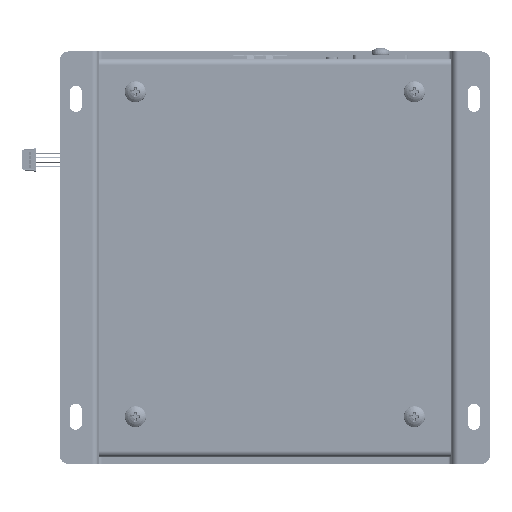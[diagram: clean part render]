
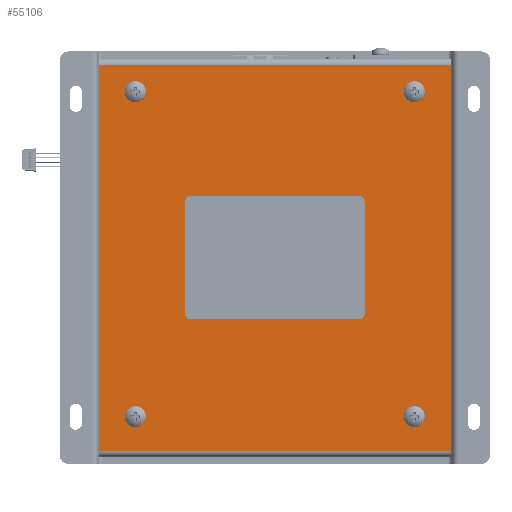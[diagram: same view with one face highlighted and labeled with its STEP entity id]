
A CAD part, front view. The second image highlights one B-rep face of the part: STEP entity #55106.
In plain terms, the highlighted planar face has unit normal (0, -1, 0).
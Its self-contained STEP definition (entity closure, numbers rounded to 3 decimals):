
#2052 = ORIENTED_EDGE ( 'NONE', *, *, #402703, .T. ) ;
#2425 = VERTEX_POINT ( 'NONE', #502120 ) ;
#10266 = DIRECTION ( 'NONE',  ( 0., 0., -1. ) ) ;
#16023 = DIRECTION ( 'NONE',  ( 0., -1., 0. ) ) ;
#24692 = DIRECTION ( 'NONE',  ( 0., 1., 0. ) ) ;
#47108 = VECTOR ( 'NONE', #346224, 1000. ) ;
#49208 = VECTOR ( 'NONE', #379936, 1000. ) ;
#49506 = CARTESIAN_POINT ( 'NONE',  ( 109.279, -18.458, -86.382 ) ) ;
#54592 = CARTESIAN_POINT ( 'NONE',  ( 99.029, -18.458, 15.207 ) ) ;
#55106 = ADVANCED_FACE ( 'NONE', ( #454043, #534404, #404377, #318540, #362795 ), #201965, .F. ) ;
#60153 = CARTESIAN_POINT ( 'NONE',  ( 99.029, -18.458, -78.493 ) ) ;
#100097 = CARTESIAN_POINT ( 'NONE',  ( 109.279, -18.458, 23.707 ) ) ;
#101751 = VERTEX_POINT ( 'NONE', #514586 ) ;
#104950 = ORIENTED_EDGE ( 'NONE', *, *, #531544, .F. ) ;
#115755 = DIRECTION ( 'NONE',  ( -1., 0., 0. ) ) ;
#125047 = CIRCLE ( 'NONE', #487704, 1.7 ) ;
#128952 = EDGE_CURVE ( 'NONE', #498407, #294352, #416074, .T. ) ;
#143276 = CIRCLE ( 'NONE', #337878, 1.7 ) ;
#154638 = CARTESIAN_POINT ( 'NONE',  ( 109.279, -18.458, 22.796 ) ) ;
#156425 = AXIS2_PLACEMENT_3D ( 'NONE', #401636, #24692, #238059 ) ;
#159145 = ORIENTED_EDGE ( 'NONE', *, *, #128952, .T. ) ;
#160834 = CARTESIAN_POINT ( 'NONE',  ( 9.779, -18.458, -86.382 ) ) ;
#170106 = EDGE_LOOP ( 'NONE', ( #159145, #425900, #436781, #2052 ) ) ;
#173966 = CARTESIAN_POINT ( 'NONE',  ( 99.029, -18.458, 13.507 ) ) ;
#177164 = CARTESIAN_POINT ( 'NONE',  ( 109.279, -18.458, -86.382 ) ) ;
#178855 = DIRECTION ( 'NONE',  ( 0., -1., 0. ) ) ;
#182663 = LINE ( 'NONE', #177164, #47108 ) ;
#182952 = CIRCLE ( 'NONE', #352282, 1.7 ) ;
#185117 = DIRECTION ( 'NONE',  ( 0., 0., -1. ) ) ;
#195395 = ORIENTED_EDGE ( 'NONE', *, *, #480691, .F. ) ;
#201965 = PLANE ( 'NONE',  #156425 ) ;
#215149 = CARTESIAN_POINT ( 'NONE',  ( 9.779, -18.458, 22.796 ) ) ;
#238059 = DIRECTION ( 'NONE',  ( 0., 0., 1. ) ) ;
#240736 = VERTEX_POINT ( 'NONE', #49506 ) ;
#247611 = EDGE_LOOP ( 'NONE', ( #297611 ) ) ;
#257132 = CARTESIAN_POINT ( 'NONE',  ( 20.029, -18.458, -78.493 ) ) ;
#292395 = VECTOR ( 'NONE', #443600, 1000. ) ;
#294352 = VERTEX_POINT ( 'NONE', #160834 ) ;
#297509 = EDGE_LOOP ( 'NONE', ( #195395 ) ) ;
#297611 = ORIENTED_EDGE ( 'NONE', *, *, #506035, .F. ) ;
#298695 = DIRECTION ( 'NONE',  ( 0., -1., 0. ) ) ;
#311853 = DIRECTION ( 'NONE',  ( 0., 0., -1. ) ) ;
#313699 = AXIS2_PLACEMENT_3D ( 'NONE', #54592, #298695, #10266 ) ;
#318540 = FACE_BOUND ( 'NONE', #501116, .T. ) ;
#327548 = CARTESIAN_POINT ( 'NONE',  ( 9.779, -18.458, 23.707 ) ) ;
#337878 = AXIS2_PLACEMENT_3D ( 'NONE', #339341, #419770, #425203 ) ;
#339341 = CARTESIAN_POINT ( 'NONE',  ( 99.029, -18.458, -76.793 ) ) ;
#340117 = CIRCLE ( 'NONE', #313699, 1.7 ) ;
#346224 = DIRECTION ( 'NONE',  ( -1., 0., 0. ) ) ;
#352282 = AXIS2_PLACEMENT_3D ( 'NONE', #395717, #16023, #185117 ) ;
#362795 = FACE_OUTER_BOUND ( 'NONE', #170106, .T. ) ;
#379936 = DIRECTION ( 'NONE',  ( 0., 0., -1. ) ) ;
#386739 = CARTESIAN_POINT ( 'NONE',  ( 20.029, -18.458, -76.793 ) ) ;
#392137 = EDGE_CURVE ( 'NONE', #2425, #240736, #399332, .T. ) ;
#395717 = CARTESIAN_POINT ( 'NONE',  ( 20.029, -18.458, 15.207 ) ) ;
#399332 = LINE ( 'NONE', #100097, #292395 ) ;
#401636 = CARTESIAN_POINT ( 'NONE',  ( 109.279, -18.458, 23.707 ) ) ;
#402703 = EDGE_CURVE ( 'NONE', #2425, #498407, #534067, .T. ) ;
#404377 = FACE_BOUND ( 'NONE', #247611, .T. ) ;
#416074 = LINE ( 'NONE', #327548, #49208 ) ;
#419770 = DIRECTION ( 'NONE',  ( 0., -1., 0. ) ) ;
#425203 = DIRECTION ( 'NONE',  ( 0., 0., -1. ) ) ;
#425900 = ORIENTED_EDGE ( 'NONE', *, *, #501002, .F. ) ;
#436781 = ORIENTED_EDGE ( 'NONE', *, *, #392137, .F. ) ;
#439757 = VERTEX_POINT ( 'NONE', #60153 ) ;
#443600 = DIRECTION ( 'NONE',  ( 0., 0., -1. ) ) ;
#454043 = FACE_BOUND ( 'NONE', #510392, .T. ) ;
#470357 = VERTEX_POINT ( 'NONE', #173966 ) ;
#480691 = EDGE_CURVE ( 'NONE', #506408, #506408, #125047, .T. ) ;
#487704 = AXIS2_PLACEMENT_3D ( 'NONE', #386739, #178855, #311853 ) ;
#488505 = ORIENTED_EDGE ( 'NONE', *, *, #513929, .F. ) ;
#498407 = VERTEX_POINT ( 'NONE', #215149 ) ;
#501002 = EDGE_CURVE ( 'NONE', #240736, #294352, #182663, .T. ) ;
#501116 = EDGE_LOOP ( 'NONE', ( #104950 ) ) ;
#502120 = CARTESIAN_POINT ( 'NONE',  ( 109.279, -18.458, 22.796 ) ) ;
#506035 = EDGE_CURVE ( 'NONE', #101751, #101751, #182952, .T. ) ;
#506408 = VERTEX_POINT ( 'NONE', #257132 ) ;
#510392 = EDGE_LOOP ( 'NONE', ( #488505 ) ) ;
#513929 = EDGE_CURVE ( 'NONE', #439757, #439757, #143276, .T. ) ;
#514586 = CARTESIAN_POINT ( 'NONE',  ( 20.029, -18.458, 13.507 ) ) ;
#519951 = VECTOR ( 'NONE', #115755, 1000. ) ;
#531544 = EDGE_CURVE ( 'NONE', #470357, #470357, #340117, .T. ) ;
#534067 = LINE ( 'NONE', #154638, #519951 ) ;
#534404 = FACE_BOUND ( 'NONE', #297509, .T. ) ;
